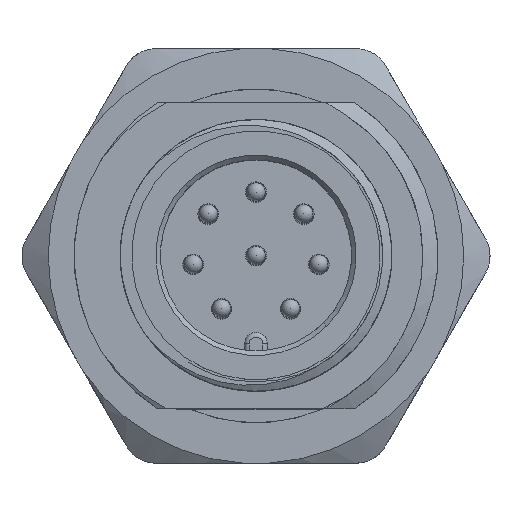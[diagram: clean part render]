
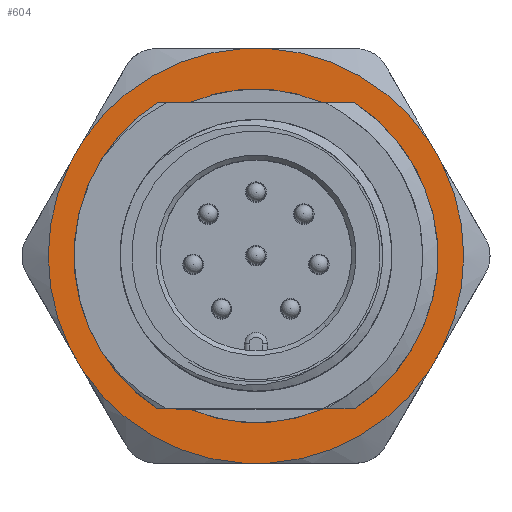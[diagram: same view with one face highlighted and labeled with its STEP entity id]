
A CAD part, top view. The second image highlights one B-rep face of the part: STEP entity #604.
In plain terms, the highlighted planar face has unit normal (0, 0, 1).
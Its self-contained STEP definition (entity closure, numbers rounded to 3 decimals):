
#255=FACE_BOUND('',#1234,.T.);
#256=FACE_BOUND('',#1235,.T.);
#429=PLANE('',#4724);
#604=ADVANCED_FACE('',(#255,#256),#429,.T.);
#1234=EDGE_LOOP('',(#2523,#2524,#2525,#2526,#2527,#2528,#2529,#2530,#2531,
#2532,#2533,#2534));
#1235=EDGE_LOOP('',(#2535,#2536,#2537,#2538,#2539,#2540,#2541,#2542,#2543));
#1440=CIRCLE('',#4529,7.25);
#1441=CIRCLE('',#4532,7.25);
#1446=CIRCLE('',#4546,7.9);
#1525=CIRCLE('',#4716,9.02);
#1526=CIRCLE('',#4717,9.02);
#1527=CIRCLE('',#4718,9.02);
#1528=CIRCLE('',#4719,9.02);
#1529=CIRCLE('',#4720,9.02);
#1530=CIRCLE('',#4721,9.02);
#1531=CIRCLE('',#4722,7.25);
#1532=CIRCLE('',#4723,7.25);
#1747=B_SPLINE_CURVE_WITH_KNOTS('',3,(#11176,#11177,#11178,#11179),
 .UNSPECIFIED.,.F.,.F.,(4,4),(0.,1.),.UNSPECIFIED.);
#1757=B_SPLINE_CURVE_WITH_KNOTS('',3,(#15894,#15895,#15896,#15897,#15898,
#15899),.UNSPECIFIED.,.F.,.F.,(4,2,4),(0.,0.5,1.),.UNSPECIFIED.);
#2523=ORIENTED_EDGE('',*,*,#3904,.F.);
#2524=ORIENTED_EDGE('',*,*,#3905,.T.);
#2525=ORIENTED_EDGE('',*,*,#3906,.F.);
#2526=ORIENTED_EDGE('',*,*,#3907,.T.);
#2527=ORIENTED_EDGE('',*,*,#3908,.F.);
#2528=ORIENTED_EDGE('',*,*,#3909,.T.);
#2529=ORIENTED_EDGE('',*,*,#3910,.F.);
#2530=ORIENTED_EDGE('',*,*,#3911,.T.);
#2531=ORIENTED_EDGE('',*,*,#3912,.F.);
#2532=ORIENTED_EDGE('',*,*,#3913,.T.);
#2533=ORIENTED_EDGE('',*,*,#3914,.F.);
#2534=ORIENTED_EDGE('',*,*,#3915,.T.);
#2535=ORIENTED_EDGE('',*,*,#3739,.F.);
#2536=ORIENTED_EDGE('',*,*,#3654,.T.);
#2537=ORIENTED_EDGE('',*,*,#3916,.F.);
#2538=ORIENTED_EDGE('',*,*,#3684,.T.);
#2539=ORIENTED_EDGE('',*,*,#3717,.T.);
#2540=ORIENTED_EDGE('',*,*,#3749,.F.);
#2541=ORIENTED_EDGE('',*,*,#3605,.F.);
#2542=ORIENTED_EDGE('',*,*,#3917,.F.);
#2543=ORIENTED_EDGE('',*,*,#3612,.F.);
#3170=VERTEX_POINT('',#8562);
#3171=VERTEX_POINT('',#8564);
#3175=VERTEX_POINT('',#8599);
#3176=VERTEX_POINT('',#8601);
#3207=VERTEX_POINT('',#8766);
#3208=VERTEX_POINT('',#8767);
#3236=VERTEX_POINT('',#8897);
#3237=VERTEX_POINT('',#8899);
#3254=VERTEX_POINT('',#9903);
#3371=VERTEX_POINT('',#17934);
#3372=VERTEX_POINT('',#17935);
#3373=VERTEX_POINT('',#17937);
#3374=VERTEX_POINT('',#17939);
#3375=VERTEX_POINT('',#17941);
#3376=VERTEX_POINT('',#17943);
#3377=VERTEX_POINT('',#17945);
#3378=VERTEX_POINT('',#17947);
#3379=VERTEX_POINT('',#17949);
#3380=VERTEX_POINT('',#17951);
#3381=VERTEX_POINT('',#17953);
#3382=VERTEX_POINT('',#17955);
#3605=EDGE_CURVE('',#3170,#3171,#1440,.T.);
#3612=EDGE_CURVE('',#3175,#3176,#1441,.T.);
#3654=EDGE_CURVE('',#3207,#3208,#4218,.T.);
#3684=EDGE_CURVE('',#3237,#3236,#4233,.T.);
#3717=EDGE_CURVE('',#3236,#3254,#1446,.T.);
#3739=EDGE_CURVE('',#3207,#3175,#1747,.T.);
#3749=EDGE_CURVE('',#3171,#3254,#1757,.T.);
#3904=EDGE_CURVE('',#3371,#3372,#1525,.T.);
#3905=EDGE_CURVE('',#3371,#3373,#4274,.T.);
#3906=EDGE_CURVE('',#3374,#3373,#1526,.T.);
#3907=EDGE_CURVE('',#3374,#3375,#4275,.T.);
#3908=EDGE_CURVE('',#3376,#3375,#1527,.T.);
#3909=EDGE_CURVE('',#3376,#3377,#4276,.T.);
#3910=EDGE_CURVE('',#3378,#3377,#1528,.T.);
#3911=EDGE_CURVE('',#3378,#3379,#4277,.T.);
#3912=EDGE_CURVE('',#3380,#3379,#1529,.T.);
#3913=EDGE_CURVE('',#3380,#3381,#4278,.T.);
#3914=EDGE_CURVE('',#3382,#3381,#1530,.T.);
#3915=EDGE_CURVE('',#3382,#3372,#4279,.T.);
#3916=EDGE_CURVE('',#3237,#3208,#1531,.T.);
#3917=EDGE_CURVE('',#3176,#3170,#1532,.T.);
#4218=LINE('',#8765,#4386);
#4233=LINE('',#8898,#4401);
#4274=LINE('',#17936,#4442);
#4275=LINE('',#17940,#4443);
#4276=LINE('',#17944,#4444);
#4277=LINE('',#17948,#4445);
#4278=LINE('',#17952,#4446);
#4279=LINE('',#17956,#4447);
#4386=VECTOR('',#5033,1.);
#4401=VECTOR('',#5048,1.);
#4442=VECTOR('',#5451,1.);
#4443=VECTOR('',#5454,1.);
#4444=VECTOR('',#5457,1.);
#4445=VECTOR('',#5460,1.);
#4446=VECTOR('',#5463,1.);
#4447=VECTOR('',#5466,1.);
#4529=AXIS2_PLACEMENT_3D('',#8563,#4994,#4995);
#4532=AXIS2_PLACEMENT_3D('',#8600,#5003,#5004);
#4546=AXIS2_PLACEMENT_3D('',#9902,#5077,#5078);
#4716=AXIS2_PLACEMENT_3D('',#17933,#5449,#5450);
#4717=AXIS2_PLACEMENT_3D('',#17938,#5452,#5453);
#4718=AXIS2_PLACEMENT_3D('',#17942,#5455,#5456);
#4719=AXIS2_PLACEMENT_3D('',#17946,#5458,#5459);
#4720=AXIS2_PLACEMENT_3D('',#17950,#5461,#5462);
#4721=AXIS2_PLACEMENT_3D('',#17954,#5464,#5465);
#4722=AXIS2_PLACEMENT_3D('',#17957,#5467,#5468);
#4723=AXIS2_PLACEMENT_3D('',#17958,#5469,#5470);
#4724=AXIS2_PLACEMENT_3D('',#17959,#5471,#5472);
#4994=DIRECTION('',(0.,0.,1.));
#4995=DIRECTION('',(1.,0.,0.));
#5003=DIRECTION('',(0.,0.,1.));
#5004=DIRECTION('',(1.,0.,0.));
#5033=DIRECTION('',(1.,0.,0.));
#5048=DIRECTION('',(1.,0.,0.));
#5077=DIRECTION('',(0.,0.,-1.));
#5078=DIRECTION('',(1.,0.,0.));
#5449=DIRECTION('',(0.,0.,-1.));
#5450=DIRECTION('',(-1.,0.,0.));
#5451=DIRECTION('',(-0.5,-0.866,0.));
#5452=DIRECTION('',(0.,0.,-1.));
#5453=DIRECTION('',(-1.,0.,0.));
#5454=DIRECTION('',(0.5,-0.866,0.));
#5455=DIRECTION('',(0.,0.,-1.));
#5456=DIRECTION('',(-1.,0.,0.));
#5457=DIRECTION('',(1.,0.,0.));
#5458=DIRECTION('',(0.,0.,-1.));
#5459=DIRECTION('',(-1.,0.,0.));
#5460=DIRECTION('',(0.5,0.866,0.));
#5461=DIRECTION('',(0.,0.,-1.));
#5462=DIRECTION('',(-1.,0.,0.));
#5463=DIRECTION('',(-0.5,0.866,0.));
#5464=DIRECTION('',(0.,0.,-1.));
#5465=DIRECTION('',(-1.,0.,0.));
#5466=DIRECTION('',(-1.,0.,0.));
#5467=DIRECTION('',(0.,0.,1.));
#5468=DIRECTION('',(1.,0.,0.));
#5469=DIRECTION('',(0.,0.,1.));
#5470=DIRECTION('',(1.,0.,0.));
#5471=DIRECTION('',(0.,0.,1.));
#5472=DIRECTION('',(-1.,0.,0.));
#8562=CARTESIAN_POINT('',(2.888,-6.65,13.8));
#8563=CARTESIAN_POINT('',(0.,0.,13.8));
#8564=CARTESIAN_POINT('',(3.338,-6.436,13.8));
#8599=CARTESIAN_POINT('',(-7.242,-0.332,13.8));
#8600=CARTESIAN_POINT('',(0.,0.,13.8));
#8601=CARTESIAN_POINT('',(-2.888,-6.65,13.8));
#8765=CARTESIAN_POINT('',(-7.433,6.65,13.8));
#8766=CARTESIAN_POINT('',(-3.881,6.65,13.8));
#8767=CARTESIAN_POINT('',(-2.888,6.65,13.8));
#8897=CARTESIAN_POINT('',(4.265,6.65,13.8));
#8898=CARTESIAN_POINT('',(-7.433,6.65,13.8));
#8899=CARTESIAN_POINT('',(2.888,6.65,13.8));
#9902=CARTESIAN_POINT('',(0.,0.,13.8));
#9903=CARTESIAN_POINT('',(7.01,3.643,13.8));
#11176=CARTESIAN_POINT('',(-3.881,6.65,13.8));
#11177=CARTESIAN_POINT('',(-6.144,5.16,13.8));
#11178=CARTESIAN_POINT('',(-7.525,2.389,13.8));
#11179=CARTESIAN_POINT('',(-7.242,-0.332,13.8));
#15894=CARTESIAN_POINT('',(3.338,-6.436,13.8));
#15895=CARTESIAN_POINT('',(5.164,-5.615,13.8));
#15896=CARTESIAN_POINT('',(6.601,-4.026,13.8));
#15897=CARTESIAN_POINT('',(7.933,-0.3,13.8));
#15898=CARTESIAN_POINT('',(7.839,1.822,13.8));
#15899=CARTESIAN_POINT('',(7.01,3.643,13.8));
#17933=CARTESIAN_POINT('',(0.,0.,13.8));
#17934=CARTESIAN_POINT('',(-7.497,5.015,13.8));
#17935=CARTESIAN_POINT('',(-0.595,9.,13.8));
#17936=CARTESIAN_POINT('',(-5.052,9.25,13.8));
#17937=CARTESIAN_POINT('',(-8.092,3.985,13.8));
#17938=CARTESIAN_POINT('',(0.,0.,13.8));
#17939=CARTESIAN_POINT('',(-8.092,-3.985,13.8));
#17940=CARTESIAN_POINT('',(-10.537,0.25,13.8));
#17941=CARTESIAN_POINT('',(-7.497,-5.015,13.8));
#17942=CARTESIAN_POINT('',(0.,0.,13.8));
#17943=CARTESIAN_POINT('',(-0.595,-9.,13.8));
#17944=CARTESIAN_POINT('',(-5.485,-9.,13.8));
#17945=CARTESIAN_POINT('',(0.595,-9.,13.8));
#17946=CARTESIAN_POINT('',(0.,0.,13.8));
#17947=CARTESIAN_POINT('',(7.497,-5.015,13.8));
#17948=CARTESIAN_POINT('',(5.052,-9.25,13.8));
#17949=CARTESIAN_POINT('',(8.092,-3.985,13.8));
#17950=CARTESIAN_POINT('',(0.,0.,13.8));
#17951=CARTESIAN_POINT('',(8.092,3.985,13.8));
#17952=CARTESIAN_POINT('',(10.537,-0.25,13.8));
#17953=CARTESIAN_POINT('',(7.497,5.015,13.8));
#17954=CARTESIAN_POINT('',(0.,0.,13.8));
#17955=CARTESIAN_POINT('',(0.595,9.,13.8));
#17956=CARTESIAN_POINT('',(5.485,9.,13.8));
#17957=CARTESIAN_POINT('',(0.,0.,13.8));
#17958=CARTESIAN_POINT('',(0.,0.,13.8));
#17959=CARTESIAN_POINT('',(0.,0.,13.8));
